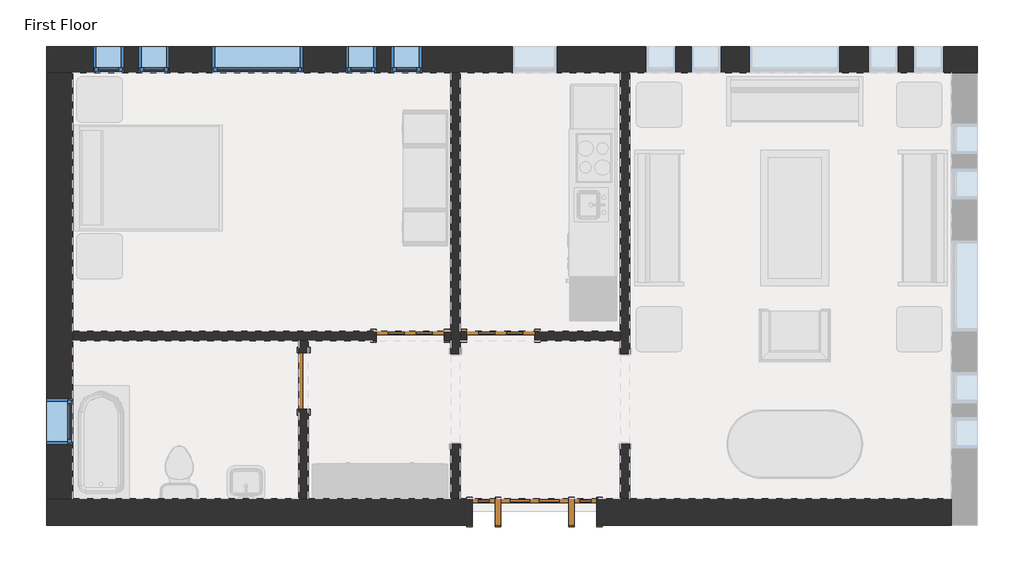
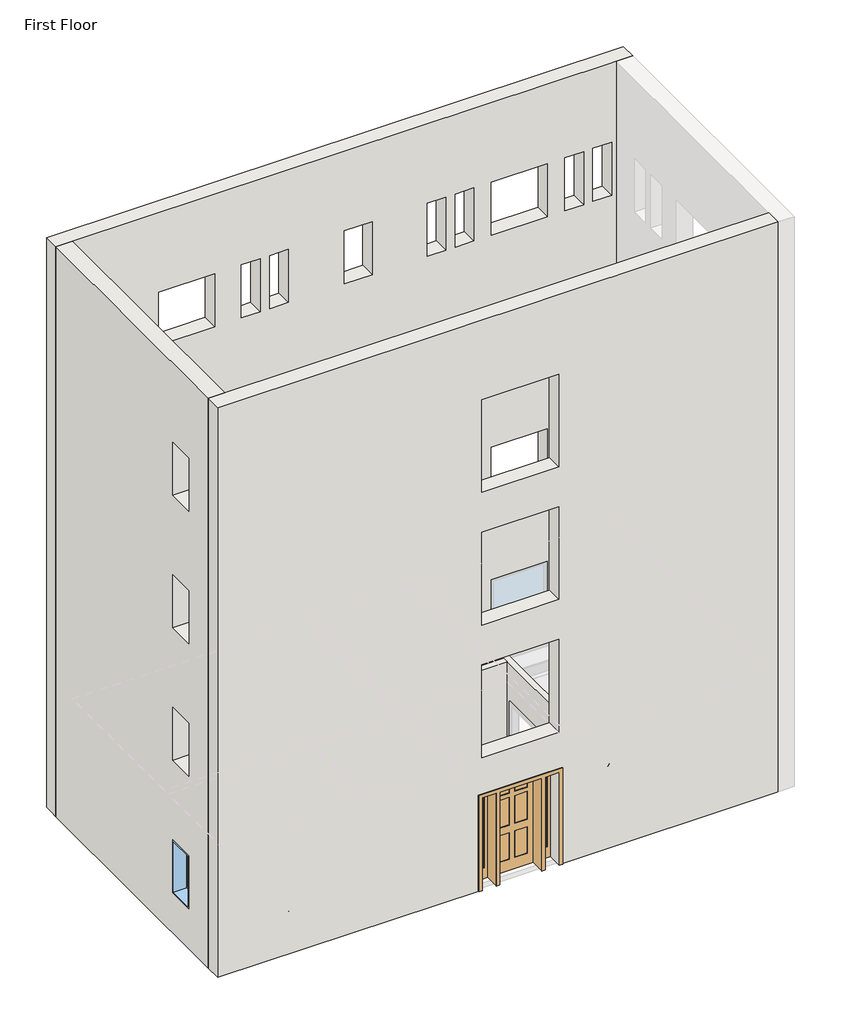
# One storey, part 1 of 2: 8 walls, 6 windows, 4 doors.
"""IFC4 building model written with IfcOpenShell, lengths in millimetres."""

from ifc_helpers import new_model, si_unit, frame, origin, place, context, project, spatial, polyline, outline, extrude, faceted_brep, transform, mapped, element, save
from components import door_829da954, door_2e3b4da2, door_4d6c7550, door_dba5aa2e, window_da97879f, window_d61ef850, window_60baf983, window_6eb97611

model = new_model("IFC4")

# Units and contexts
model_context = context("Model", 3, world=origin())
ifc_project = project(units=[si_unit("LENGTHUNIT", "METRE", prefix="MILLI")], contexts=[model_context])

# Site, building, storey
site = spatial("IfcSite", under=ifc_project)
building = spatial("IfcBuilding", under=site)
storey = spatial("IfcBuildingStorey", under=building, Name="First Floor", Elevation=0.0)

# Doors
placement = place(None, origin())
door_shape = door_829da954(model_context)
element("IfcDoor", 1, ObjectType="Single-Decorative 2 : 36\" x 84\"", at=placement, inside=storey, context=model_context, shape_type="MappedRepresentation", body=[
    mapped(door_shape, transform((-5449.8589563, 6723.5441867, 0.0), x_axis=(-1.0, 0.0, 0.0), y_axis=(0.0, -1.0, 0.0), z_axis=(0.0, 0.0, 1.0))),
])
door_2_shape = door_2e3b4da2(model_context)
element("IfcDoor", 2, ObjectType="Single-Decorative 2 : 36\" x 84\"", at=placement, inside=storey, context=model_context, shape_type="MappedRepresentation", body=[
    mapped(door_2_shape, transform((-6669.0589563, 6723.5441867, 0.0), x_axis=(1.0, 0.0, 0.0), y_axis=(0.0, 1.0, 0.0), z_axis=(0.0, 0.0, 1.0))),
])
door_3_shape = door_4d6c7550(model_context)
element("IfcDoor", 3, ObjectType="Single-Flush : 30\" x 84\"", at=placement, inside=storey, context=model_context, shape_type="MappedRepresentation", body=[
    mapped(door_3_shape, transform((-8105.7464563, 6113.9441867, 0.0), x_axis=(0.0, 1.0, 0.0), y_axis=(-1.0, 0.0, 0.0), z_axis=(0.0, 0.0, 1.0))),
])
door_4_shape = door_dba5aa2e(model_context)
element("IfcDoor", 4, ObjectType="Single-Raised Panel with Sidelights : 36\" x 84\"", at=placement, inside=storey, context=model_context, shape_type="MappedRepresentation", body=[
    mapped(door_4_shape, transform((-4992.6589563, 4350.2316867, 0.0), x_axis=(-1.0, 0.0, 0.0), y_axis=(0.0, -1.0, 0.0), z_axis=(0.0, 0.0, 1.0))),
])

# Walls
element("IfcWall", 5, ObjectType="Exterior - Brick on Mtl. Stud", at=placement, inside=storey, context=model_context, shape_type="Brep", body=[
    faceted_brep([(-11569.6714563, 10270.0191867, 0.0), (-11382.3464563, 10270.0191867, 0.0), (-11217.2464563, 10270.0191867, 0.0), (-6122.9589563, 10270.0191867, 0.0), (-5995.9589563, 10270.0191867, 0.0), (-3836.9589563, 10270.0191867, 0.0), (-3709.9589563, 10270.0191867, 0.0), (622.3285437, 10270.0191867, 0.0), (787.4285437, 10270.0191867, 0.0), (974.7535437, 10270.0191867, 0.0), (974.7535437, 10270.0191867, 13106.4), (622.3285437, 10270.0191867, 13106.4), (-11217.2464563, 10270.0191867, 13106.4), (-11569.6714563, 10270.0191867, 13106.4), (-5297.4589563, 10270.0191867, 2133.6), (-4687.8589563, 10270.0191867, 2133.6), (-4687.8589563, 10270.0191867, 914.4), (-5297.4589563, 10270.0191867, 914.4), (-9336.0589563, 10270.0191867, 2133.6), (-8116.8589563, 10270.0191867, 2133.6), (-8116.8589563, 10270.0191867, 914.4), (-9336.0589563, 10270.0191867, 914.4), (-2097.0589563, 10270.0191867, 2133.6), (-877.8589563, 10270.0191867, 2133.6), (-877.8589563, 10270.0191867, 914.4), (-2097.0589563, 10270.0191867, 914.4), (-10936.2589563, 10270.0191867, 2133.6), (-10529.8589563, 10270.0191867, 2133.6), (-10529.8589563, 10270.0191867, 914.4), (-10936.2589563, 10270.0191867, 914.4), (-10326.6589563, 10270.0191867, 2133.6), (-9920.2589563, 10270.0191867, 2133.6), (-9920.2589563, 10270.0191867, 914.4), (-10326.6589563, 10270.0191867, 914.4), (-6516.6589563, 10270.0191867, 2133.6), (-6516.6589563, 10270.0191867, 914.4), (-6923.0589563, 10270.0191867, 914.4), (-6923.0589563, 10270.0191867, 2133.6), (-7126.2589563, 10270.0191867, 2133.6), (-7126.2589563, 10270.0191867, 914.4), (-7532.6589563, 10270.0191867, 914.4), (-7532.6589563, 10270.0191867, 2133.6), (-3494.0589563, 10270.0191867, 2133.6), (-3087.6589563, 10270.0191867, 2133.6), (-3087.6589563, 10270.0191867, 914.4), (-3494.0589563, 10270.0191867, 914.4), (-2884.4589563, 10270.0191867, 2133.6), (-2478.0589563, 10270.0191867, 2133.6), (-2478.0589563, 10270.0191867, 914.4), (-2884.4589563, 10270.0191867, 914.4), (519.1410437, 10270.0191867, 2133.6), (519.1410437, 10270.0191867, 914.4), (112.7410437, 10270.0191867, 914.4), (112.7410437, 10270.0191867, 2133.6), (-90.4589563, 10270.0191867, 2133.6), (-90.4589563, 10270.0191867, 914.4), (-496.8589563, 10270.0191867, 914.4), (-496.8589563, 10270.0191867, 2133.6), (-5297.4589563, 10270.0191867, 11277.6), (-4687.8589563, 10270.0191867, 11277.6), (-4687.8589563, 10270.0191867, 10058.4), (-5297.4589563, 10270.0191867, 10058.4), (-9336.0589563, 10270.0191867, 11277.6), (-8116.8589563, 10270.0191867, 11277.6), (-8116.8589563, 10270.0191867, 10058.4), (-9336.0589563, 10270.0191867, 10058.4), (-2097.0589563, 10270.0191867, 11277.6), (-877.8589563, 10270.0191867, 11277.6), (-877.8589563, 10270.0191867, 10058.4), (-2097.0589563, 10270.0191867, 10058.4), (-10936.2589563, 10270.0191867, 11277.6), (-10529.8589563, 10270.0191867, 11277.6), (-10529.8589563, 10270.0191867, 10058.4), (-10936.2589563, 10270.0191867, 10058.4), (-10326.6589563, 10270.0191867, 11277.6), (-9920.2589563, 10270.0191867, 11277.6), (-9920.2589563, 10270.0191867, 10058.4), (-10326.6589563, 10270.0191867, 10058.4), (-6516.6589563, 10270.0191867, 11277.6), (-6516.6589563, 10270.0191867, 10058.4), (-6923.0589563, 10270.0191867, 10058.4), (-6923.0589563, 10270.0191867, 11277.6), (-7126.2589563, 10270.0191867, 11277.6), (-7126.2589563, 10270.0191867, 10058.4), (-7532.6589563, 10270.0191867, 10058.4), (-7532.6589563, 10270.0191867, 11277.6), (-3494.0589563, 10270.0191867, 11277.6), (-3087.6589563, 10270.0191867, 11277.6), (-3087.6589563, 10270.0191867, 10058.4), (-3494.0589563, 10270.0191867, 10058.4), (-2884.4589563, 10270.0191867, 11277.6), (-2478.0589563, 10270.0191867, 11277.6), (-2478.0589563, 10270.0191867, 10058.4), (-2884.4589563, 10270.0191867, 10058.4), (519.1410437, 10270.0191867, 11277.6), (519.1410437, 10270.0191867, 10058.4), (112.7410437, 10270.0191867, 10058.4), (112.7410437, 10270.0191867, 11277.6), (-90.4589563, 10270.0191867, 11277.6), (-90.4589563, 10270.0191867, 10058.4), (-496.8589563, 10270.0191867, 10058.4), (-496.8589563, 10270.0191867, 11277.6), (-5297.4589563, 10270.0191867, 5181.6), (-4687.8589563, 10270.0191867, 5181.6), (-4687.8589563, 10270.0191867, 3962.4), (-5297.4589563, 10270.0191867, 3962.4), (-9336.0589563, 10270.0191867, 5181.6), (-8116.8589563, 10270.0191867, 5181.6), (-8116.8589563, 10270.0191867, 3962.4), (-9336.0589563, 10270.0191867, 3962.4), (-2097.0589563, 10270.0191867, 5181.6), (-877.8589563, 10270.0191867, 5181.6), (-877.8589563, 10270.0191867, 3962.4), (-2097.0589563, 10270.0191867, 3962.4), (-10936.2589563, 10270.0191867, 5181.6), (-10529.8589563, 10270.0191867, 5181.6), (-10529.8589563, 10270.0191867, 3962.4), (-10936.2589563, 10270.0191867, 3962.4), (-10326.6589563, 10270.0191867, 5181.6), (-9920.2589563, 10270.0191867, 5181.6), (-9920.2589563, 10270.0191867, 3962.4), (-10326.6589563, 10270.0191867, 3962.4), (-6516.6589563, 10270.0191867, 5181.6), (-6516.6589563, 10270.0191867, 3962.4), (-6923.0589563, 10270.0191867, 3962.4), (-6923.0589563, 10270.0191867, 5181.6), (-7126.2589563, 10270.0191867, 5181.6), (-7126.2589563, 10270.0191867, 3962.4), (-7532.6589563, 10270.0191867, 3962.4), (-7532.6589563, 10270.0191867, 5181.6), (-3494.0589563, 10270.0191867, 5181.6), (-3087.6589563, 10270.0191867, 5181.6), (-3087.6589563, 10270.0191867, 3962.4), (-3494.0589563, 10270.0191867, 3962.4), (-2884.4589563, 10270.0191867, 5181.6), (-2478.0589563, 10270.0191867, 5181.6), (-2478.0589563, 10270.0191867, 3962.4), (-2884.4589563, 10270.0191867, 3962.4), (519.1410437, 10270.0191867, 5181.6), (519.1410437, 10270.0191867, 3962.4), (112.7410437, 10270.0191867, 3962.4), (112.7410437, 10270.0191867, 5181.6), (-90.4589563, 10270.0191867, 5181.6), (-90.4589563, 10270.0191867, 3962.4), (-496.8589563, 10270.0191867, 3962.4), (-496.8589563, 10270.0191867, 5181.6), (-5297.4589563, 10270.0191867, 8229.6), (-4687.8589563, 10270.0191867, 8229.6), (-4687.8589563, 10270.0191867, 7010.4), (-5297.4589563, 10270.0191867, 7010.4), (-9336.0589563, 10270.0191867, 8229.6), (-8116.8589563, 10270.0191867, 8229.6), (-8116.8589563, 10270.0191867, 7010.4), (-9336.0589563, 10270.0191867, 7010.4), (-2097.0589563, 10270.0191867, 8229.6), (-877.8589563, 10270.0191867, 8229.6), (-877.8589563, 10270.0191867, 7010.4), (-2097.0589563, 10270.0191867, 7010.4), (-10936.2589563, 10270.0191867, 8229.6), (-10529.8589563, 10270.0191867, 8229.6), (-10529.8589563, 10270.0191867, 7010.4), (-10936.2589563, 10270.0191867, 7010.4), (-10326.6589563, 10270.0191867, 8229.6), (-9920.2589563, 10270.0191867, 8229.6), (-9920.2589563, 10270.0191867, 7010.4), (-10326.6589563, 10270.0191867, 7010.4), (-6516.6589563, 10270.0191867, 8229.6), (-6516.6589563, 10270.0191867, 7010.4), (-6923.0589563, 10270.0191867, 7010.4), (-6923.0589563, 10270.0191867, 8229.6), (-7126.2589563, 10270.0191867, 8229.6), (-7126.2589563, 10270.0191867, 7010.4), (-7532.6589563, 10270.0191867, 7010.4), (-7532.6589563, 10270.0191867, 8229.6), (-3494.0589563, 10270.0191867, 8229.6), (-3087.6589563, 10270.0191867, 8229.6), (-3087.6589563, 10270.0191867, 7010.4), (-3494.0589563, 10270.0191867, 7010.4), (-2884.4589563, 10270.0191867, 8229.6), (-2478.0589563, 10270.0191867, 8229.6), (-2478.0589563, 10270.0191867, 7010.4), (-2884.4589563, 10270.0191867, 7010.4), (519.1410437, 10270.0191867, 8229.6), (519.1410437, 10270.0191867, 7010.4), (112.7410437, 10270.0191867, 7010.4), (112.7410437, 10270.0191867, 8229.6), (-90.4589563, 10270.0191867, 8229.6), (-90.4589563, 10270.0191867, 7010.4), (-496.8589563, 10270.0191867, 7010.4), (-496.8589563, 10270.0191867, 8229.6), (-11569.6714563, 10622.4441867, 0.0), (-11569.6714563, 10622.4441867, 13106.4), (974.7535437, 10622.4441867, 13106.4), (974.7535437, 10622.4441867, 0.0), (787.4285437, 10622.4441867, 0.0), (-11382.3464563, 10622.4441867, 0.0), (-5297.4589563, 10622.4441867, 2133.6), (-5297.4589563, 10622.4441867, 914.4), (-4687.8589563, 10622.4441867, 914.4), (-4687.8589563, 10622.4441867, 2133.6), (-9336.0589563, 10622.4441867, 2133.6), (-9336.0589563, 10622.4441867, 914.4), (-8116.8589563, 10622.4441867, 914.4), (-8116.8589563, 10622.4441867, 2133.6), (-2097.0589563, 10622.4441867, 2133.6), (-2097.0589563, 10622.4441867, 914.4), (-877.8589563, 10622.4441867, 914.4), (-877.8589563, 10622.4441867, 2133.6), (-10936.2589563, 10622.4441867, 2133.6), (-10936.2589563, 10622.4441867, 914.4), (-10529.8589563, 10622.4441867, 914.4), (-10529.8589563, 10622.4441867, 2133.6), (-10326.6589563, 10622.4441867, 2133.6), (-10326.6589563, 10622.4441867, 914.4), (-9920.2589563, 10622.4441867, 914.4), (-9920.2589563, 10622.4441867, 2133.6), (-6516.6589563, 10622.4441867, 2133.6), (-6923.0589563, 10622.4441867, 2133.6), (-6923.0589563, 10622.4441867, 914.4), (-6516.6589563, 10622.4441867, 914.4), (-7126.2589563, 10622.4441867, 2133.6), (-7532.6589563, 10622.4441867, 2133.6), (-7532.6589563, 10622.4441867, 914.4), (-7126.2589563, 10622.4441867, 914.4), (-3494.0589563, 10622.4441867, 2133.6), (-3494.0589563, 10622.4441867, 914.4), (-3087.6589563, 10622.4441867, 914.4), (-3087.6589563, 10622.4441867, 2133.6), (-2884.4589563, 10622.4441867, 2133.6), (-2884.4589563, 10622.4441867, 914.4), (-2478.0589563, 10622.4441867, 914.4), (-2478.0589563, 10622.4441867, 2133.6), (519.1410437, 10622.4441867, 2133.6), (112.7410437, 10622.4441867, 2133.6), (112.7410437, 10622.4441867, 914.4), (519.1410437, 10622.4441867, 914.4), (-90.4589563, 10622.4441867, 2133.6), (-496.8589563, 10622.4441867, 2133.6), (-496.8589563, 10622.4441867, 914.4), (-90.4589563, 10622.4441867, 914.4), (-5297.4589563, 10622.4441867, 11277.6), (-5297.4589563, 10622.4441867, 10058.4), (-4687.8589563, 10622.4441867, 10058.4), (-4687.8589563, 10622.4441867, 11277.6), (-9336.0589563, 10622.4441867, 11277.6), (-9336.0589563, 10622.4441867, 10058.4), (-8116.8589563, 10622.4441867, 10058.4), (-8116.8589563, 10622.4441867, 11277.6), (-2097.0589563, 10622.4441867, 11277.6), (-2097.0589563, 10622.4441867, 10058.4), (-877.8589563, 10622.4441867, 10058.4), (-877.8589563, 10622.4441867, 11277.6), (-10936.2589563, 10622.4441867, 11277.6), (-10936.2589563, 10622.4441867, 10058.4), (-10529.8589563, 10622.4441867, 10058.4), (-10529.8589563, 10622.4441867, 11277.6), (-10326.6589563, 10622.4441867, 11277.6), (-10326.6589563, 10622.4441867, 10058.4), (-9920.2589563, 10622.4441867, 10058.4), (-9920.2589563, 10622.4441867, 11277.6), (-6516.6589563, 10622.4441867, 11277.6), (-6923.0589563, 10622.4441867, 11277.6), (-6923.0589563, 10622.4441867, 10058.4), (-6516.6589563, 10622.4441867, 10058.4), (-7126.2589563, 10622.4441867, 11277.6), (-7532.6589563, 10622.4441867, 11277.6), (-7532.6589563, 10622.4441867, 10058.4), (-7126.2589563, 10622.4441867, 10058.4), (-3494.0589563, 10622.4441867, 11277.6), (-3494.0589563, 10622.4441867, 10058.4), (-3087.6589563, 10622.4441867, 10058.4), (-3087.6589563, 10622.4441867, 11277.6), (-2884.4589563, 10622.4441867, 11277.6), (-2884.4589563, 10622.4441867, 10058.4), (-2478.0589563, 10622.4441867, 10058.4), (-2478.0589563, 10622.4441867, 11277.6), (519.1410437, 10622.4441867, 11277.6), (112.7410437, 10622.4441867, 11277.6), (112.7410437, 10622.4441867, 10058.4), (519.1410437, 10622.4441867, 10058.4), (-90.4589563, 10622.4441867, 11277.6), (-496.8589563, 10622.4441867, 11277.6), (-496.8589563, 10622.4441867, 10058.4), (-90.4589563, 10622.4441867, 10058.4), (-5297.4589563, 10622.4441867, 5181.6), (-5297.4589563, 10622.4441867, 3962.4), (-4687.8589563, 10622.4441867, 3962.4), (-4687.8589563, 10622.4441867, 5181.6), (-9336.0589563, 10622.4441867, 5181.6), (-9336.0589563, 10622.4441867, 3962.4), (-8116.8589563, 10622.4441867, 3962.4), (-8116.8589563, 10622.4441867, 5181.6), (-2097.0589563, 10622.4441867, 5181.6), (-2097.0589563, 10622.4441867, 3962.4), (-877.8589563, 10622.4441867, 3962.4), (-877.8589563, 10622.4441867, 5181.6), (-10936.2589563, 10622.4441867, 5181.6), (-10936.2589563, 10622.4441867, 3962.4), (-10529.8589563, 10622.4441867, 3962.4), (-10529.8589563, 10622.4441867, 5181.6), (-10326.6589563, 10622.4441867, 5181.6), (-10326.6589563, 10622.4441867, 3962.4), (-9920.2589563, 10622.4441867, 3962.4), (-9920.2589563, 10622.4441867, 5181.6), (-6516.6589563, 10622.4441867, 5181.6), (-6923.0589563, 10622.4441867, 5181.6), (-6923.0589563, 10622.4441867, 3962.4), (-6516.6589563, 10622.4441867, 3962.4), (-7126.2589563, 10622.4441867, 5181.6), (-7532.6589563, 10622.4441867, 5181.6), (-7532.6589563, 10622.4441867, 3962.4), (-7126.2589563, 10622.4441867, 3962.4), (-3494.0589563, 10622.4441867, 5181.6), (-3494.0589563, 10622.4441867, 3962.4), (-3087.6589563, 10622.4441867, 3962.4), (-3087.6589563, 10622.4441867, 5181.6), (-2884.4589563, 10622.4441867, 5181.6), (-2884.4589563, 10622.4441867, 3962.4), (-2478.0589563, 10622.4441867, 3962.4), (-2478.0589563, 10622.4441867, 5181.6), (519.1410437, 10622.4441867, 5181.6), (112.7410437, 10622.4441867, 5181.6), (112.7410437, 10622.4441867, 3962.4), (519.1410437, 10622.4441867, 3962.4), (-90.4589563, 10622.4441867, 5181.6), (-496.8589563, 10622.4441867, 5181.6), (-496.8589563, 10622.4441867, 3962.4), (-90.4589563, 10622.4441867, 3962.4), (-5297.4589563, 10622.4441867, 8229.6), (-5297.4589563, 10622.4441867, 7010.4), (-4687.8589563, 10622.4441867, 7010.4), (-4687.8589563, 10622.4441867, 8229.6), (-9336.0589563, 10622.4441867, 8229.6), (-9336.0589563, 10622.4441867, 7010.4), (-8116.8589563, 10622.4441867, 7010.4), (-8116.8589563, 10622.4441867, 8229.6), (-2097.0589563, 10622.4441867, 8229.6), (-2097.0589563, 10622.4441867, 7010.4), (-877.8589563, 10622.4441867, 7010.4), (-877.8589563, 10622.4441867, 8229.6), (-10936.2589563, 10622.4441867, 8229.6), (-10936.2589563, 10622.4441867, 7010.4), (-10529.8589563, 10622.4441867, 7010.4), (-10529.8589563, 10622.4441867, 8229.6), (-10326.6589563, 10622.4441867, 8229.6), (-10326.6589563, 10622.4441867, 7010.4), (-9920.2589563, 10622.4441867, 7010.4), (-9920.2589563, 10622.4441867, 8229.6), (-6516.6589563, 10622.4441867, 8229.6), (-6923.0589563, 10622.4441867, 8229.6), (-6923.0589563, 10622.4441867, 7010.4), (-6516.6589563, 10622.4441867, 7010.4), (-7126.2589563, 10622.4441867, 8229.6), (-7532.6589563, 10622.4441867, 8229.6), (-7532.6589563, 10622.4441867, 7010.4), (-7126.2589563, 10622.4441867, 7010.4), (-3494.0589563, 10622.4441867, 8229.6), (-3494.0589563, 10622.4441867, 7010.4), (-3087.6589563, 10622.4441867, 7010.4), (-3087.6589563, 10622.4441867, 8229.6), (-2884.4589563, 10622.4441867, 8229.6), (-2884.4589563, 10622.4441867, 7010.4), (-2478.0589563, 10622.4441867, 7010.4), (-2478.0589563, 10622.4441867, 8229.6), (519.1410437, 10622.4441867, 8229.6), (112.7410437, 10622.4441867, 8229.6), (112.7410437, 10622.4441867, 7010.4), (519.1410437, 10622.4441867, 7010.4), (-90.4589563, 10622.4441867, 8229.6), (-496.8589563, 10622.4441867, 8229.6), (-496.8589563, 10622.4441867, 7010.4), (-90.4589563, 10622.4441867, 7010.4), (974.7535437, 10435.1191867, 0.0), (-11569.6714563, 10435.1191867, 0.0), (-11382.3464563, 10435.1191867, 0.0), (787.4285437, 10435.1191867, 0.0)], [[[0, 1, 2, 3, 4, 5, 6, 7, 8, 9, 10, 11, 12, 13], [14, 15, 16, 17], [18, 19, 20, 21], [22, 23, 24, 25], [26, 27, 28, 29], [30, 31, 32, 33], [34, 35, 36, 37], [38, 39, 40, 41], [42, 43, 44, 45], [46, 47, 48, 49], [50, 51, 52, 53], [54, 55, 56, 57], [58, 59, 60, 61], [62, 63, 64, 65], [66, 67, 68, 69], [70, 71, 72, 73], [74, 75, 76, 77], [78, 79, 80, 81], [82, 83, 84, 85], [86, 87, 88, 89], [90, 91, 92, 93], [94, 95, 96, 97], [98, 99, 100, 101], [102, 103, 104, 105], [106, 107, 108, 109], [110, 111, 112, 113], [114, 115, 116, 117], [118, 119, 120, 121], [122, 123, 124, 125], [126, 127, 128, 129], [130, 131, 132, 133], [134, 135, 136, 137], [138, 139, 140, 141], [142, 143, 144, 145], [146, 147, 148, 149], [150, 151, 152, 153], [154, 155, 156, 157], [158, 159, 160, 161], [162, 163, 164, 165], [166, 167, 168, 169], [170, 171, 172, 173], [174, 175, 176, 177], [178, 179, 180, 181], [182, 183, 184, 185], [186, 187, 188, 189]], [[190, 191, 192, 193, 194, 195], [196, 197, 198, 199], [200, 201, 202, 203], [204, 205, 206, 207], [208, 209, 210, 211], [212, 213, 214, 215], [216, 217, 218, 219], [220, 221, 222, 223], [224, 225, 226, 227], [228, 229, 230, 231], [232, 233, 234, 235], [236, 237, 238, 239], [240, 241, 242, 243], [244, 245, 246, 247], [248, 249, 250, 251], [252, 253, 254, 255], [256, 257, 258, 259], [260, 261, 262, 263], [264, 265, 266, 267], [268, 269, 270, 271], [272, 273, 274, 275], [276, 277, 278, 279], [280, 281, 282, 283], [284, 285, 286, 287], [288, 289, 290, 291], [292, 293, 294, 295], [296, 297, 298, 299], [300, 301, 302, 303], [304, 305, 306, 307], [308, 309, 310, 311], [312, 313, 314, 315], [316, 317, 318, 319], [320, 321, 322, 323], [324, 325, 326, 327], [328, 329, 330, 331], [332, 333, 334, 335], [336, 337, 338, 339], [340, 341, 342, 343], [344, 345, 346, 347], [348, 349, 350, 351], [352, 353, 354, 355], [356, 357, 358, 359], [360, 361, 362, 363], [364, 365, 366, 367], [368, 369, 370, 371]], [[13, 12, 11, 10, 192, 191]], [[10, 9, 372, 193, 192]], [[0, 13, 191, 190, 373]], [[1, 0, 373, 374]], [[373, 190, 195, 374]], [[9, 8, 375, 372]], [[195, 194, 375, 374]], [[194, 193, 372, 375]], [[8, 7, 6, 5, 4, 3, 2, 1, 374, 375]], [[197, 196, 14, 17]], [[198, 197, 17, 16]], [[199, 198, 16, 15]], [[196, 199, 15, 14]], [[201, 200, 18, 21]], [[202, 201, 21, 20]], [[203, 202, 20, 19]], [[200, 203, 19, 18]], [[205, 204, 22, 25]], [[206, 205, 25, 24]], [[207, 206, 24, 23]], [[204, 207, 23, 22]], [[209, 208, 26, 29]], [[210, 209, 29, 28]], [[211, 210, 28, 27]], [[208, 211, 27, 26]], [[213, 212, 30, 33]], [[214, 213, 33, 32]], [[215, 214, 32, 31]], [[212, 215, 31, 30]], [[35, 34, 216, 219]], [[36, 35, 219, 218]], [[37, 36, 218, 217]], [[34, 37, 217, 216]], [[39, 38, 220, 223]], [[40, 39, 223, 222]], [[41, 40, 222, 221]], [[38, 41, 221, 220]], [[225, 224, 42, 45]], [[226, 225, 45, 44]], [[227, 226, 44, 43]], [[224, 227, 43, 42]], [[229, 228, 46, 49]], [[230, 229, 49, 48]], [[231, 230, 48, 47]], [[228, 231, 47, 46]], [[51, 50, 232, 235]], [[52, 51, 235, 234]], [[53, 52, 234, 233]], [[50, 53, 233, 232]], [[55, 54, 236, 239]], [[56, 55, 239, 238]], [[57, 56, 238, 237]], [[54, 57, 237, 236]], [[241, 240, 58, 61]], [[242, 241, 61, 60]], [[243, 242, 60, 59]], [[240, 243, 59, 58]], [[245, 244, 62, 65]], [[246, 245, 65, 64]], [[247, 246, 64, 63]], [[244, 247, 63, 62]], [[249, 248, 66, 69]], [[250, 249, 69, 68]], [[251, 250, 68, 67]], [[248, 251, 67, 66]], [[253, 252, 70, 73]], [[254, 253, 73, 72]], [[255, 254, 72, 71]], [[252, 255, 71, 70]], [[257, 256, 74, 77]], [[258, 257, 77, 76]], [[259, 258, 76, 75]], [[256, 259, 75, 74]], [[79, 78, 260, 263]], [[80, 79, 263, 262]], [[81, 80, 262, 261]], [[78, 81, 261, 260]], [[83, 82, 264, 267]], [[84, 83, 267, 266]], [[85, 84, 266, 265]], [[82, 85, 265, 264]], [[269, 268, 86, 89]], [[270, 269, 89, 88]], [[271, 270, 88, 87]], [[268, 271, 87, 86]], [[273, 272, 90, 93]], [[274, 273, 93, 92]], [[275, 274, 92, 91]], [[272, 275, 91, 90]], [[95, 94, 276, 279]], [[96, 95, 279, 278]], [[97, 96, 278, 277]], [[94, 97, 277, 276]], [[99, 98, 280, 283]], [[100, 99, 283, 282]], [[101, 100, 282, 281]], [[98, 101, 281, 280]], [[285, 284, 102, 105]], [[286, 285, 105, 104]], [[287, 286, 104, 103]], [[284, 287, 103, 102]], [[289, 288, 106, 109]], [[290, 289, 109, 108]], [[291, 290, 108, 107]], [[288, 291, 107, 106]], [[293, 292, 110, 113]], [[294, 293, 113, 112]], [[295, 294, 112, 111]], [[292, 295, 111, 110]], [[297, 296, 114, 117]], [[298, 297, 117, 116]], [[299, 298, 116, 115]], [[296, 299, 115, 114]], [[301, 300, 118, 121]], [[302, 301, 121, 120]], [[303, 302, 120, 119]], [[300, 303, 119, 118]], [[123, 122, 304, 307]], [[124, 123, 307, 306]], [[125, 124, 306, 305]], [[122, 125, 305, 304]], [[127, 126, 308, 311]], [[128, 127, 311, 310]], [[129, 128, 310, 309]], [[126, 129, 309, 308]], [[313, 312, 130, 133]], [[314, 313, 133, 132]], [[315, 314, 132, 131]], [[312, 315, 131, 130]], [[317, 316, 134, 137]], [[318, 317, 137, 136]], [[319, 318, 136, 135]], [[316, 319, 135, 134]], [[139, 138, 320, 323]], [[140, 139, 323, 322]], [[141, 140, 322, 321]], [[138, 141, 321, 320]], [[143, 142, 324, 327]], [[144, 143, 327, 326]], [[145, 144, 326, 325]], [[142, 145, 325, 324]], [[329, 328, 146, 149]], [[330, 329, 149, 148]], [[331, 330, 148, 147]], [[328, 331, 147, 146]], [[333, 332, 150, 153]], [[334, 333, 153, 152]], [[335, 334, 152, 151]], [[332, 335, 151, 150]], [[337, 336, 154, 157]], [[338, 337, 157, 156]], [[339, 338, 156, 155]], [[336, 339, 155, 154]], [[341, 340, 158, 161]], [[342, 341, 161, 160]], [[343, 342, 160, 159]], [[340, 343, 159, 158]], [[345, 344, 162, 165]], [[346, 345, 165, 164]], [[347, 346, 164, 163]], [[344, 347, 163, 162]], [[167, 166, 348, 351]], [[168, 167, 351, 350]], [[169, 168, 350, 349]], [[166, 169, 349, 348]], [[171, 170, 352, 355]], [[172, 171, 355, 354]], [[173, 172, 354, 353]], [[170, 173, 353, 352]], [[357, 356, 174, 177]], [[358, 357, 177, 176]], [[359, 358, 176, 175]], [[356, 359, 175, 174]], [[361, 360, 178, 181]], [[362, 361, 181, 180]], [[363, 362, 180, 179]], [[360, 363, 179, 178]], [[183, 182, 364, 367]], [[184, 183, 367, 366]], [[185, 184, 366, 365]], [[182, 185, 365, 364]], [[187, 186, 368, 371]], [[188, 187, 371, 370]], [[189, 188, 370, 369]], [[186, 189, 369, 368]]]),
])
element("IfcWall", 6, ObjectType="Exterior - Brick on Mtl. Stud", at=placement, inside=storey, context=model_context, shape_type="Brep", body=[
    faceted_brep([(-5830.8589563, 4526.4441867, 2133.6), (-5830.8589563, 4526.4441867, 0.0), (-5995.9589563, 4526.4441867, 0.0), (-6122.9589563, 4526.4441867, 0.0), (-8042.2464563, 4526.4441867, 0.0), (-8169.2464563, 4526.4441867, 0.0), (-11217.2464563, 4526.4441867, 0.0), (-11569.6714563, 4526.4441867, 0.0), (-11569.6714563, 4526.4441867, 13106.4), (-11217.2464563, 4526.4441867, 13106.4), (622.3285437, 4526.4441867, 13106.4), (622.3285437, 4526.4441867, 0.0), (-3709.9589563, 4526.4441867, 0.0), (-3836.9589563, 4526.4441867, 0.0), (-4154.4589563, 4526.4441867, 0.0), (-4154.4589563, 4526.4441867, 2133.6), (-4154.4589563, 4526.4441867, 9144.0), (-4154.4589563, 4526.4441867, 11277.6), (-5830.8589563, 4526.4441867, 11277.6), (-5830.8589563, 4526.4441867, 9144.0), (-4154.4589563, 4526.4441867, 3048.0), (-4154.4589563, 4526.4441867, 5181.6), (-5830.8589563, 4526.4441867, 5181.6), (-5830.8589563, 4526.4441867, 3048.0), (-4154.4589563, 4526.4441867, 6096.0), (-4154.4589563, 4526.4441867, 8229.6), (-5830.8589563, 4526.4441867, 8229.6), (-5830.8589563, 4526.4441867, 6096.0), (-11569.6714563, 4174.0191867, 0.0), (-5830.8589563, 4174.0191867, 0.0), (-5830.8589563, 4174.0191867, 2133.6), (-4154.4589563, 4174.0191867, 2133.6), (-4154.4589563, 4174.0191867, 0.0), (622.3285437, 4174.0191867, 0.0), (622.3285437, 4174.0191867, 13106.4), (-11569.6714563, 4174.0191867, 13106.4), (-4154.4589563, 4174.0191867, 9144.0), (-5830.8589563, 4174.0191867, 9144.0), (-5830.8589563, 4174.0191867, 11277.6), (-4154.4589563, 4174.0191867, 11277.6), (-4154.4589563, 4174.0191867, 3048.0), (-5830.8589563, 4174.0191867, 3048.0), (-5830.8589563, 4174.0191867, 5181.6), (-4154.4589563, 4174.0191867, 5181.6), (-4154.4589563, 4174.0191867, 6096.0), (-5830.8589563, 4174.0191867, 6096.0), (-5830.8589563, 4174.0191867, 8229.6), (-4154.4589563, 4174.0191867, 8229.6)], [[[0, 1, 2, 3, 4, 5, 6, 7, 8, 9, 10, 11, 12, 13, 14, 15], [16, 17, 18, 19], [20, 21, 22, 23], [24, 25, 26, 27]], [[28, 29, 30, 31, 32, 33, 34, 35], [36, 37, 38, 39], [40, 41, 42, 43], [44, 45, 46, 47]], [[7, 6, 5, 4, 3, 2, 1, 29, 28]], [[14, 13, 12, 11, 33, 32]], [[10, 9, 8, 35, 34]], [[8, 7, 28, 35]], [[11, 10, 34, 33]], [[30, 29, 1, 0]], [[31, 30, 0, 15]], [[32, 31, 15, 14]], [[37, 36, 16, 19]], [[38, 37, 19, 18]], [[39, 38, 18, 17]], [[36, 39, 17, 16]], [[41, 40, 20, 23]], [[42, 41, 23, 22]], [[43, 42, 22, 21]], [[40, 43, 21, 20]], [[45, 44, 24, 27]], [[46, 45, 27, 26]], [[47, 46, 26, 25]], [[44, 47, 25, 24]]]),
])
element("IfcWall", 7, ObjectType="Exterior - Brick on Mtl. Stud", at=placement, inside=storey, context=model_context, shape_type="Brep", body=[
    faceted_brep([(-11217.2464563, 4526.4441867, 0.0), (-11217.2464563, 6660.0441867, 0.0), (-11217.2464563, 6787.0441867, 0.0), (-11217.2464563, 10270.0191867, 0.0), (-11217.2464563, 10270.0191867, 13106.4), (-11217.2464563, 4526.4441867, 13106.4), (-11217.2464563, 5264.6316867, 2133.6), (-11217.2464563, 5874.2316867, 2133.6), (-11217.2464563, 5874.2316867, 914.4), (-11217.2464563, 5264.6316867, 914.4), (-11217.2464563, 5264.6316867, 11277.6), (-11217.2464563, 5874.2316867, 11277.6), (-11217.2464563, 5874.2316867, 10058.4), (-11217.2464563, 5264.6316867, 10058.4), (-11217.2464563, 5264.6316867, 5181.6), (-11217.2464563, 5874.2316867, 5181.6), (-11217.2464563, 5874.2316867, 3962.4), (-11217.2464563, 5264.6316867, 3962.4), (-11217.2464563, 5264.6316867, 8229.6), (-11217.2464563, 5874.2316867, 8229.6), (-11217.2464563, 5874.2316867, 7010.4), (-11217.2464563, 5264.6316867, 7010.4), (-11569.6714563, 4526.4441867, 0.0), (-11569.6714563, 4526.4441867, 13106.4), (-11569.6714563, 10270.0191867, 13106.4), (-11569.6714563, 10270.0191867, 0.0), (-11569.6714563, 5264.6316867, 2133.6), (-11569.6714563, 5264.6316867, 914.4), (-11569.6714563, 5874.2316867, 914.4), (-11569.6714563, 5874.2316867, 2133.6), (-11569.6714563, 5264.6316867, 11277.6), (-11569.6714563, 5264.6316867, 10058.4), (-11569.6714563, 5874.2316867, 10058.4), (-11569.6714563, 5874.2316867, 11277.6), (-11569.6714563, 5264.6316867, 5181.6), (-11569.6714563, 5264.6316867, 3962.4), (-11569.6714563, 5874.2316867, 3962.4), (-11569.6714563, 5874.2316867, 5181.6), (-11569.6714563, 5264.6316867, 8229.6), (-11569.6714563, 5264.6316867, 7010.4), (-11569.6714563, 5874.2316867, 7010.4), (-11569.6714563, 5874.2316867, 8229.6), (-11382.3464563, 4526.4441867, 0.0), (-11382.3464563, 10270.0191867, 0.0)], [[[0, 1, 2, 3, 4, 5], [6, 7, 8, 9], [10, 11, 12, 13], [14, 15, 16, 17], [18, 19, 20, 21]], [[22, 23, 24, 25], [26, 27, 28, 29], [30, 31, 32, 33], [34, 35, 36, 37], [38, 39, 40, 41]], [[5, 4, 24, 23]], [[0, 5, 23, 22, 42]], [[4, 3, 43, 25, 24]], [[42, 22, 25, 43]], [[3, 2, 1, 0, 42, 43]], [[27, 26, 6, 9]], [[28, 27, 9, 8]], [[29, 28, 8, 7]], [[26, 29, 7, 6]], [[31, 30, 10, 13]], [[32, 31, 13, 12]], [[33, 32, 12, 11]], [[30, 33, 11, 10]], [[35, 34, 14, 17]], [[36, 35, 17, 16]], [[37, 36, 16, 15]], [[34, 37, 15, 14]], [[39, 38, 18, 21]], [[40, 39, 21, 20]], [[41, 40, 20, 19]], [[38, 41, 19, 18]]]),
])
element("IfcWall", 8, ObjectType="Interior - 5\" Partition (2-hr)", at=placement, inside=storey, context=model_context, shape_type="Brep", body=[
    faceted_brep([(-3836.9589563, 10270.0191867, 0.0), (-3836.9589563, 6787.0441867, 0.0), (-3836.9589563, 6660.0441867, 0.0), (-3836.9589563, 6483.8316867, 0.0), (-3836.9589563, 6483.8316867, 2133.6), (-3836.9589563, 5264.6316867, 2133.6), (-3836.9589563, 5264.6316867, 0.0), (-3836.9589563, 4526.4441867, 0.0), (-3836.9589563, 4526.4441867, 3048.0), (-3836.9589563, 6660.0441867, 3048.0), (-3836.9589563, 6787.0441867, 3048.0), (-3836.9589563, 10270.0191867, 3048.0), (-3709.9589563, 6483.8316867, 2133.6), (-3709.9589563, 6483.8316867, 0.0), (-3709.9589563, 10270.0191867, 0.0), (-3709.9589563, 10270.0191867, 3048.0), (-3709.9589563, 4526.4441867, 3048.0), (-3709.9589563, 4526.4441867, 0.0), (-3709.9589563, 5264.6316867, 0.0), (-3709.9589563, 5264.6316867, 2133.6)], [[[0, 1, 2, 3, 4, 5, 6, 7, 8, 9, 10, 11]], [[12, 13, 14, 15, 16, 17, 18, 19]], [[14, 13, 3, 2, 1, 0]], [[18, 17, 7, 6]], [[11, 10, 9, 8, 16, 15]], [[0, 11, 15, 14]], [[8, 7, 17, 16]], [[6, 5, 19, 18]], [[4, 3, 13, 12]], [[5, 4, 12, 19]]]),
])
element("IfcWall", 9, ObjectType="Interior - 5\" Partition (2-hr)", at=placement, inside=storey, context=model_context, shape_type="Brep", body=[
    faceted_brep([(-6122.9589563, 5264.6316867, 2133.6), (-6122.9589563, 5264.6316867, 0.0), (-6122.9589563, 4526.4441867, 0.0), (-6122.9589563, 4526.4441867, 3048.0), (-6122.9589563, 6660.0441867, 3048.0), (-6122.9589563, 6787.0441867, 3048.0), (-6122.9589563, 10270.0191867, 3048.0), (-6122.9589563, 10270.0191867, 0.0), (-6122.9589563, 6787.0441867, 0.0), (-6122.9589563, 6660.0441867, 0.0), (-6122.9589563, 6483.8316867, 0.0), (-6122.9589563, 6483.8316867, 2133.6), (-5995.9589563, 4526.4441867, 0.0), (-5995.9589563, 5264.6316867, 0.0), (-5995.9589563, 5264.6316867, 2133.6), (-5995.9589563, 6483.8316867, 2133.6), (-5995.9589563, 6483.8316867, 0.0), (-5995.9589563, 6660.0441867, 0.0), (-5995.9589563, 6787.0441867, 0.0), (-5995.9589563, 10270.0191867, 0.0), (-5995.9589563, 10270.0191867, 3048.0), (-5995.9589563, 6787.0441867, 3048.0), (-5995.9589563, 6660.0441867, 3048.0), (-5995.9589563, 4526.4441867, 3048.0)], [[[0, 1, 2, 3, 4, 5, 6, 7, 8, 9, 10, 11]], [[12, 13, 14, 15, 16, 17, 18, 19, 20, 21, 22, 23]], [[2, 1, 13, 12]], [[10, 9, 8, 7, 19, 18, 17, 16]], [[6, 5, 4, 3, 23, 22, 21, 20]], [[7, 6, 20, 19]], [[3, 2, 12, 23]], [[16, 15, 11, 10]], [[14, 13, 1, 0]], [[15, 14, 0, 11]]]),
])
element("IfcWall", 10, ObjectType="Interior - 5\" Partition (2-hr)", at=placement, inside=storey, context=model_context, shape_type="Brep", body=[
    faceted_brep([(-6211.8589563, 6660.0441867, 2133.6), (-6211.8589563, 6660.0441867, 0.0), (-6122.9589563, 6660.0441867, 0.0), (-6122.9589563, 6660.0441867, 3048.0), (-8042.2464563, 6660.0441867, 3048.0), (-8169.2464563, 6660.0441867, 3048.0), (-11217.2464563, 6660.0441867, 3048.0), (-11217.2464563, 6660.0441867, 0.0), (-8169.2464563, 6660.0441867, 0.0), (-8042.2464563, 6660.0441867, 0.0), (-7126.2589563, 6660.0441867, 0.0), (-7126.2589563, 6660.0441867, 2133.6), (-6122.9589563, 6787.0441867, 0.0), (-6211.8589563, 6787.0441867, 0.0), (-6211.8589563, 6787.0441867, 2133.6), (-7126.2589563, 6787.0441867, 2133.6), (-7126.2589563, 6787.0441867, 0.0), (-11217.2464563, 6787.0441867, 0.0), (-11217.2464563, 6787.0441867, 3048.0), (-6122.9589563, 6787.0441867, 3048.0)], [[[0, 1, 2, 3, 4, 5, 6, 7, 8, 9, 10, 11]], [[12, 13, 14, 15, 16, 17, 18, 19]], [[2, 1, 13, 12]], [[10, 9, 8, 7, 17, 16]], [[6, 5, 4, 3, 19, 18]], [[7, 6, 18, 17]], [[3, 2, 12, 19]], [[14, 13, 1, 0]], [[15, 14, 0, 11]], [[16, 15, 11, 10]]]),
])
element("IfcWall", 11, ObjectType="Interior - 5\" Partition (2-hr)", at=placement, inside=storey, context=model_context, shape_type="SweptSolid", body=[
    extrude(outline(polyline([(6660.0441867, 0.0), (6494.9441867, 0.0), (6494.9441867, 2133.6), (5732.9441867, 2133.6), (5732.9441867, 0.0), (4526.4441867, 0.0), (4526.4441867, 3048.0), (6660.0441867, 3048.0), (6660.0441867, 0.0)])), frame((-8169.2464563, 0.0, 0.0), z_axis=(1.0, 0.0, 0.0), x_axis=(0.0, 1.0, 0.0)), (0.0, 0.0, 1.0), 127.0),
])
element("IfcWall", 12, ObjectType="Interior - 5\" Partition (2-hr)", at=placement, inside=storey, context=model_context, shape_type="SweptSolid", body=[
    extrude(outline(polyline([(0.0, -5995.9589563), (0.0, -5907.0589563), (2133.6, -5907.0589563), (2133.6, -4992.6589563), (0.0, -4992.6589563), (0.0, -3836.9589563), (3048.0, -3836.9589563), (3048.0, -5995.9589563), (0.0, -5995.9589563)])), frame((0.0, 6660.0441867, 0.0), z_axis=(0.0, 1.0, 0.0), x_axis=(0.0, 0.0, 1.0)), (0.0, 0.0, 1.0), 127.0),
])

# Windows
window_shape = window_da97879f(model_context)
element("IfcWindow", 13, ObjectType="Fixed : 16\" x 48\"", at=placement, inside=storey, context=model_context, shape_type="MappedRepresentation", body=[
    mapped(window_shape, transform((-10771.1589563, 10446.2316867, 0.0), x_axis=(-1.0, 0.0, 0.0), y_axis=(0.0, -1.0, 0.0), z_axis=(0.0, 0.0, 1.0))),
])
element("IfcWindow", 14, ObjectType="Fixed : 16\" x 48\"", at=placement, inside=storey, context=model_context, shape_type="MappedRepresentation", body=[
    mapped(window_shape, transform((-10161.5589563, 10446.2316867, 0.0), x_axis=(-1.0, 0.0, 0.0), y_axis=(0.0, -1.0, 0.0), z_axis=(0.0, 0.0, 1.0))),
])
window_2_shape = window_d61ef850(model_context)
element("IfcWindow", 15, ObjectType="Fixed : 16\" x 48\"", at=placement, inside=storey, context=model_context, shape_type="MappedRepresentation", body=[
    mapped(window_2_shape, transform((-6681.7589563, 10446.2316867, 0.0), x_axis=(1.0, 0.0, 0.0), y_axis=(0.0, 1.0, 0.0), z_axis=(0.0, 0.0, 1.0))),
])
element("IfcWindow", 16, ObjectType="Fixed : 16\" x 48\"", at=placement, inside=storey, context=model_context, shape_type="MappedRepresentation", body=[
    mapped(window_2_shape, transform((-7291.3589563, 10446.2316867, 0.0), x_axis=(1.0, 0.0, 0.0), y_axis=(0.0, 1.0, 0.0), z_axis=(0.0, 0.0, 1.0))),
])
window_3_shape = window_60baf983(model_context)
element("IfcWindow", 17, ObjectType="Fixed : 24\" x 48\"", at=placement, inside=storey, context=model_context, shape_type="MappedRepresentation", body=[
    mapped(window_3_shape, transform((-11393.4589563, 5531.3316867, 0.0), x_axis=(0.0, -1.0, 0.0), y_axis=(1.0, 0.0, 0.0), z_axis=(0.0, 0.0, 1.0))),
])
window_4_shape = window_6eb97611(model_context)
element("IfcWindow", 18, ObjectType="Fixed : 48\" x 48\"", at=placement, inside=storey, context=model_context, shape_type="MappedRepresentation", body=[
    mapped(window_4_shape, transform((-8764.5589563, 10446.2316867, 0.0), x_axis=(-1.0, 0.0, 0.0), y_axis=(0.0, -1.0, 0.0), z_axis=(0.0, 0.0, 1.0))),
])

save(model, "model.ifc")
